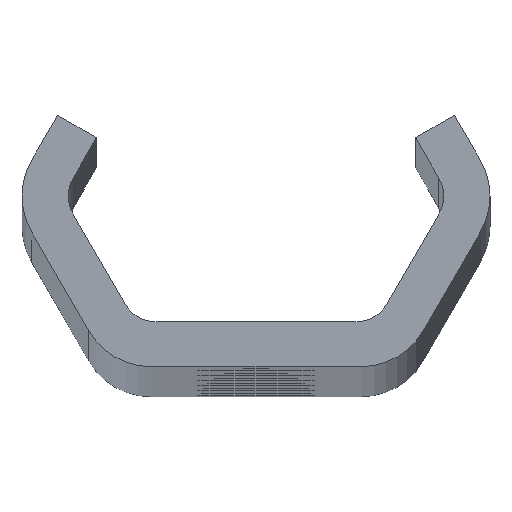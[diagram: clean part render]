
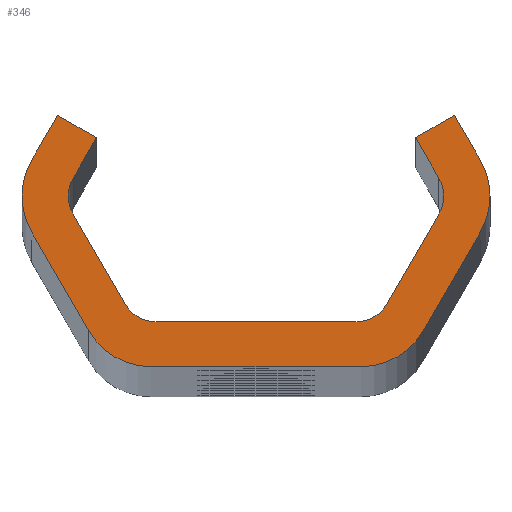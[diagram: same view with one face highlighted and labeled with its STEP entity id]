
A CAD part, top view. The second image highlights one B-rep face of the part: STEP entity #346.
In plain terms, the highlighted planar face has unit normal (0, 0, 1).
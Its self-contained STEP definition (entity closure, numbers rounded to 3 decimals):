
#346=ADVANCED_FACE('NONE',(#898),#899,.F.);
#898=FACE_OUTER_BOUND('',#2658,.T.);
#899=PLANE('',#2659);
#2658=EDGE_LOOP('',(#5340,#5341,#5342,#5343,#5344,#5345,#5346,#5347,#5348,#5349,#5350,#5351,#5352,#5353,#5354,#5355,#5356,#5357,#5358,#5359,#5360,#5361,#5362,#5363));
#2659=AXIS2_PLACEMENT_3D('',#5364,#5365,#5366);
#5340=ORIENTED_EDGE('',*,*,#7069,.T.);
#5341=ORIENTED_EDGE('',*,*,#7086,.T.);
#5342=ORIENTED_EDGE('',*,*,#7071,.T.);
#5343=ORIENTED_EDGE('',*,*,#7087,.T.);
#5344=ORIENTED_EDGE('',*,*,#7080,.F.);
#5345=ORIENTED_EDGE('',*,*,#7088,.T.);
#5346=ORIENTED_EDGE('',*,*,#6757,.T.);
#5347=ORIENTED_EDGE('',*,*,#7083,.F.);
#5348=ORIENTED_EDGE('',*,*,#6921,.F.);
#5349=ORIENTED_EDGE('',*,*,#6925,.F.);
#5350=ORIENTED_EDGE('',*,*,#6831,.T.);
#5351=ORIENTED_EDGE('',*,*,#7089,.T.);
#5352=ORIENTED_EDGE('',*,*,#6929,.F.);
#5353=ORIENTED_EDGE('',*,*,#7090,.T.);
#5354=ORIENTED_EDGE('',*,*,#6934,.F.);
#5355=ORIENTED_EDGE('',*,*,#7091,.T.);
#5356=ORIENTED_EDGE('',*,*,#7052,.T.);
#5357=ORIENTED_EDGE('',*,*,#7092,.T.);
#5358=ORIENTED_EDGE('',*,*,#6752,.T.);
#5359=ORIENTED_EDGE('',*,*,#7055,.T.);
#5360=ORIENTED_EDGE('',*,*,#7061,.T.);
#5361=ORIENTED_EDGE('',*,*,#7065,.T.);
#5362=ORIENTED_EDGE('',*,*,#7093,.T.);
#5363=ORIENTED_EDGE('',*,*,#6834,.T.);
#5364=CARTESIAN_POINT('',(0.0,0.0,960.0));
#5365=DIRECTION('',(0.0,0.0,-1.0));
#5366=DIRECTION('',(0.0,-1.0,0.0));
#6752=EDGE_CURVE('NONE',#7548,#7552,#7554,.T.);
#6757=EDGE_CURVE('NONE',#7557,#7561,#7563,.T.);
#6831=EDGE_CURVE('NONE',#7696,#7694,#7697,.T.);
#6834=EDGE_CURVE('NONE',#7700,#7701,#7702,.T.);
#6921=EDGE_CURVE('NONE',#7832,#7834,#7835,.T.);
#6925=EDGE_CURVE('NONE',#7696,#7832,#7839,.T.);
#6929=EDGE_CURVE('NONE',#7844,#7846,#7847,.T.);
#6934=EDGE_CURVE('NONE',#7853,#7855,#7856,.T.);
#7052=EDGE_CURVE('NONE',#8082,#8080,#8083,.T.);
#7055=EDGE_CURVE('NONE',#7552,#8086,#8087,.T.);
#7061=EDGE_CURVE('NONE',#8086,#8094,#8096,.T.);
#7065=EDGE_CURVE('NONE',#8094,#8100,#8102,.T.);
#7069=EDGE_CURVE('NONE',#7701,#8106,#8108,.T.);
#7071=EDGE_CURVE('NONE',#8110,#8111,#8112,.T.);
#7080=EDGE_CURVE('NONE',#8124,#8126,#8127,.T.);
#7083=EDGE_CURVE('NONE',#7834,#7561,#8130,.T.);
#7086=EDGE_CURVE('NONE',#8106,#8110,#8133,.T.);
#7087=EDGE_CURVE('NONE',#8111,#8126,#8134,.T.);
#7088=EDGE_CURVE('NONE',#8124,#7557,#8135,.T.);
#7089=EDGE_CURVE('NONE',#7694,#7846,#8136,.T.);
#7090=EDGE_CURVE('NONE',#7844,#7855,#8137,.T.);
#7091=EDGE_CURVE('NONE',#7853,#8082,#8138,.T.);
#7092=EDGE_CURVE('NONE',#8080,#7548,#8139,.T.);
#7093=EDGE_CURVE('NONE',#8100,#7700,#8140,.T.);
#7548=VERTEX_POINT('',#8730);
#7552=VERTEX_POINT('NONE',#8735);
#7554=CIRCLE('',#8738,2.0);
#7557=VERTEX_POINT('',#8741);
#7561=VERTEX_POINT('NONE',#8746);
#7563=CIRCLE('',#8749,4.0);
#7694=VERTEX_POINT('NONE',#9934);
#7696=VERTEX_POINT('NONE',#9937);
#7697=CIRCLE('',#9938,2.0);
#7700=VERTEX_POINT('NONE',#9942);
#7701=VERTEX_POINT('NONE',#9943);
#7702=CIRCLE('',#9944,4.0);
#7832=VERTEX_POINT('NONE',#10097);
#7834=VERTEX_POINT('NONE',#10100);
#7835=LINE('',#10101,#10102);
#7839=LINE('',#10108,#10109);
#7844=VERTEX_POINT('NONE',#10115);
#7846=VERTEX_POINT('NONE',#10118);
#7847=LINE('',#10119,#10120);
#7853=VERTEX_POINT('NONE',#10128);
#7855=VERTEX_POINT('NONE',#10131);
#7856=LINE('',#10132,#10133);
#8080=VERTEX_POINT('NONE',#10959);
#8082=VERTEX_POINT('NONE',#10962);
#8083=LINE('',#10963,#10964);
#8086=VERTEX_POINT('NONE',#10968);
#8087=LINE('',#10969,#10970);
#8094=VERTEX_POINT('NONE',#10980);
#8096=LINE('',#10983,#10984);
#8100=VERTEX_POINT('NONE',#10989);
#8102=LINE('',#10992,#10993);
#8106=VERTEX_POINT('NONE',#10998);
#8108=LINE('',#11001,#11002);
#8110=VERTEX_POINT('NONE',#11004);
#8111=VERTEX_POINT('NONE',#11005);
#8112=LINE('',#11006,#11007);
#8124=VERTEX_POINT('NONE',#11023);
#8126=VERTEX_POINT('NONE',#11026);
#8127=LINE('',#11027,#11028);
#8130=LINE('',#11032,#11033);
#8133=CIRCLE('',#11037,4.0);
#8134=CIRCLE('',#11038,4.0);
#8135=CIRCLE('',#11039,4.0);
#8136=CIRCLE('',#11040,2.0);
#8137=CIRCLE('',#11041,2.0);
#8138=CIRCLE('',#11042,2.0);
#8139=CIRCLE('',#11043,2.0);
#8140=CIRCLE('',#11044,4.0);
#8730=CARTESIAN_POINT('',(-10.455,0.,960.0));
#8735=CARTESIAN_POINT('',(-10.187,1.,960.0));
#8738=AXIS2_PLACEMENT_3D('',#12987,#12988,#12989);
#8741=CARTESIAN_POINT('',(13.032,0.,960.0));
#8746=CARTESIAN_POINT('',(12.496,2.,960.0));
#8749=AXIS2_PLACEMENT_3D('',#12995,#12996,#12997);
#9934=CARTESIAN_POINT('',(10.455,0.,960.0));
#9937=CARTESIAN_POINT('',(10.187,1.,960.0));
#9938=AXIS2_PLACEMENT_3D('',#13042,#13043,#13044);
#9942=CARTESIAN_POINT('',(-13.032,0.,960.0));
#9943=CARTESIAN_POINT('',(-12.496,-2.,960.0));
#9944=AXIS2_PLACEMENT_3D('',#13046,#13047,#13048);
#10097=CARTESIAN_POINT('',(8.888,3.25,960.0));
#10100=CARTESIAN_POINT('',(11.053,4.5,960.0));
#10101=CARTESIAN_POINT('',(8.888,3.25,960.0));
#10102=VECTOR('',#13196,1000.0);
#10108=CARTESIAN_POINT('',(10.764,0.,960.0));
#10109=VECTOR('',#13199,1000.0);
#10115=CARTESIAN_POINT('',(7.3,-6.,960.0));
#10118=CARTESIAN_POINT('',(10.187,-1.,960.0));
#10119=CARTESIAN_POINT('',(6.723,-7.0,960.0));
#10120=VECTOR('',#13202,1000.0);
#10128=CARTESIAN_POINT('',(-5.568,-7.0,960.0));
#10131=CARTESIAN_POINT('',(5.568,-7.0,960.0));
#10132=CARTESIAN_POINT('',(-6.723,-7.0,960.0));
#10133=VECTOR('',#13206,1000.0);
#10959=CARTESIAN_POINT('',(-10.187,-1.,960.0));
#10962=CARTESIAN_POINT('',(-7.3,-6.,960.0));
#10963=CARTESIAN_POINT('',(-6.723,-7.0,960.0));
#10964=VECTOR('',#13315,1000.0);
#10968=CARTESIAN_POINT('',(-8.888,3.25,960.0));
#10969=CARTESIAN_POINT('',(-10.764,0.0,960.0));
#10970=VECTOR('',#13317,1000.0);
#10980=CARTESIAN_POINT('',(-11.053,4.5,960.0));
#10983=CARTESIAN_POINT('',(-8.888,3.25,960.0));
#10984=VECTOR('',#13322,1000.0);
#10989=CARTESIAN_POINT('',(-12.496,2.0,960.0));
#10992=CARTESIAN_POINT('',(-11.053,4.5,960.0));
#10993=VECTOR('',#13325,1000.0);
#10998=CARTESIAN_POINT('',(-9.321,-7.5,960.0));
#11001=CARTESIAN_POINT('',(-13.651,0.0,960.0));
#11002=VECTOR('',#13328,1000.0);
#11004=CARTESIAN_POINT('',(-5.857,-9.5,960.0));
#11005=CARTESIAN_POINT('',(5.857,-9.5,960.0));
#11006=CARTESIAN_POINT('',(-8.166,-9.5,960.0));
#11007=VECTOR('',#13329,1000.0);
#11023=CARTESIAN_POINT('',(12.496,-2.,960.0));
#11026=CARTESIAN_POINT('',(9.321,-7.5,960.0));
#11027=CARTESIAN_POINT('',(13.651,0.,960.0));
#11028=VECTOR('',#13341,1000.0);
#11032=CARTESIAN_POINT('',(11.053,4.5,960.0));
#11033=VECTOR('',#13343,1000.0);
#11037=AXIS2_PLACEMENT_3D('',#13345,#13346,#13347);
#11038=AXIS2_PLACEMENT_3D('',#13348,#13349,#13350);
#11039=AXIS2_PLACEMENT_3D('',#13351,#13352,#13353);
#11040=AXIS2_PLACEMENT_3D('',#13354,#13355,#13356);
#11041=AXIS2_PLACEMENT_3D('',#13357,#13358,#13359);
#11042=AXIS2_PLACEMENT_3D('',#13360,#13361,#13362);
#11043=AXIS2_PLACEMENT_3D('',#13363,#13364,#13365);
#11044=AXIS2_PLACEMENT_3D('',#13366,#13367,#13368);
#12987=CARTESIAN_POINT('',(-8.455,0.,960.0));
#12988=DIRECTION('',(0.0,0.0,-1.0));
#12989=DIRECTION('',(-1.0,0.0,0.0));
#12995=CARTESIAN_POINT('',(9.032,0.,960.0));
#12996=DIRECTION('',(0.0,0.0,1.0));
#12997=DIRECTION('',(-1.0,0.0,0.0));
#13042=CARTESIAN_POINT('',(8.455,0.,960.0));
#13043=DIRECTION('',(0.0,0.0,-1.0));
#13044=DIRECTION('',(-1.0,0.0,0.0));
#13046=CARTESIAN_POINT('',(-9.032,0.,960.0));
#13047=DIRECTION('',(0.0,0.0,1.0));
#13048=DIRECTION('',(-1.0,0.0,0.0));
#13196=DIRECTION('',(0.866,0.5,0.0));
#13199=DIRECTION('',(-0.5,0.866,0.0));
#13202=DIRECTION('',(0.5,0.866,0.0));
#13206=DIRECTION('',(1.0,0.,0.0));
#13315=DIRECTION('',(-0.5,0.866,0.0));
#13317=DIRECTION('',(0.5,0.866,0.0));
#13322=DIRECTION('',(-0.866,0.5,0.0));
#13325=DIRECTION('',(-0.5,-0.866,0.0));
#13328=DIRECTION('',(0.5,-0.866,0.0));
#13329=DIRECTION('',(1.0,0.,0.0));
#13341=DIRECTION('',(-0.5,-0.866,0.0));
#13343=DIRECTION('',(0.5,-0.866,0.0));
#13345=CARTESIAN_POINT('',(-5.857,-5.5,960.0));
#13346=DIRECTION('',(0.0,0.0,1.0));
#13347=DIRECTION('',(-1.0,0.0,0.0));
#13348=CARTESIAN_POINT('',(5.857,-5.5,960.0));
#13349=DIRECTION('',(0.0,0.0,1.0));
#13350=DIRECTION('',(-1.0,0.0,0.0));
#13351=CARTESIAN_POINT('',(9.032,0.,960.0));
#13352=DIRECTION('',(0.0,0.0,1.0));
#13353=DIRECTION('',(-1.0,0.0,0.0));
#13354=CARTESIAN_POINT('',(8.455,0.,960.0));
#13355=DIRECTION('',(0.0,0.0,-1.0));
#13356=DIRECTION('',(-1.0,0.0,0.0));
#13357=CARTESIAN_POINT('',(5.568,-5.0,960.0));
#13358=DIRECTION('',(0.0,0.0,-1.0));
#13359=DIRECTION('',(-1.0,0.0,0.0));
#13360=CARTESIAN_POINT('',(-5.568,-5.0,960.0));
#13361=DIRECTION('',(0.0,0.0,-1.0));
#13362=DIRECTION('',(-1.0,0.0,0.0));
#13363=CARTESIAN_POINT('',(-8.455,0.,960.0));
#13364=DIRECTION('',(0.0,0.0,-1.0));
#13365=DIRECTION('',(-1.0,0.0,0.0));
#13366=CARTESIAN_POINT('',(-9.032,0.,960.0));
#13367=DIRECTION('',(0.0,0.0,1.0));
#13368=DIRECTION('',(-1.0,0.,0.0));
